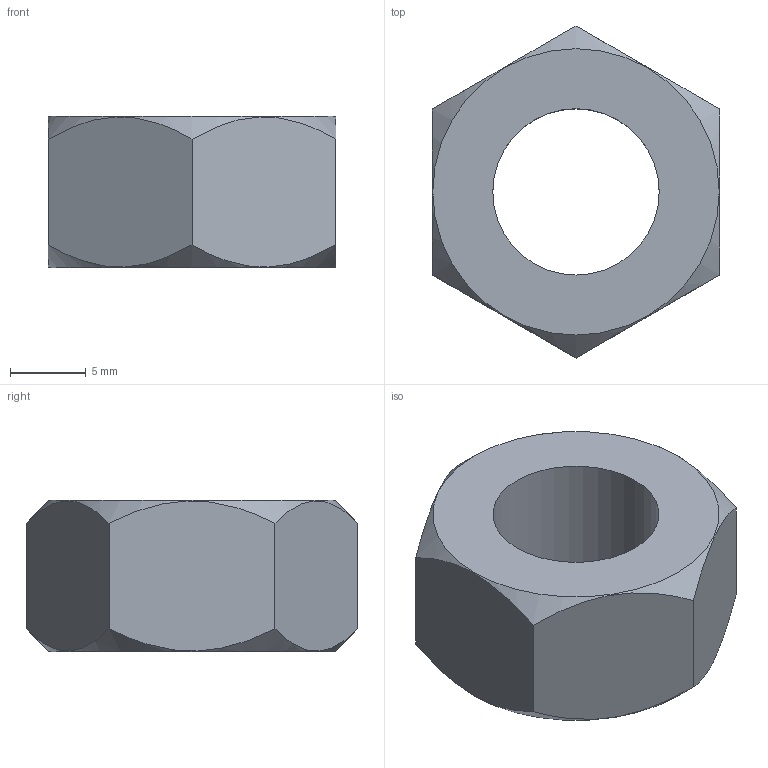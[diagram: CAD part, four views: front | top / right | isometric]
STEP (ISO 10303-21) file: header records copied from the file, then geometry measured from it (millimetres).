
FILE_DESCRIPTION(/* description */ (''),/* implementation_level */ '2;1');
FILE_NAME(/* name */ 'D:\조절자\NUT\M12 NUT.stp',/* time_stamp */ '2016-03-14T15:29:16+09:00',/* author */ ('GS-DT-1-001'),/* organization */ (''),/* preprocessor_version */ 'ST-DEVELOPER v15.6',/* originating_system */ 'Autodesk Inventor LT ',/* authorisation */ '');
FILE_SCHEMA (('AUTOMOTIVE_DESIGN { 1 0 10303 214 3 1 1 }'));
Length unit declared in the file: millimetre
Products named in the file (1): M12 NUT
Bounding box: 19 x 21.94 x 10 mm (x, y, z)
Volume: 2148.4 mm3; surface area: 1394.2 mm2
Topology: 1 solids, 1 shells, 11 faces, 25 edges, 16 vertices
Faces by surface type: plane 8, cone 2, cylinder 1
Full cylindrical faces by diameter (mm): 11 x1
Entity records: 308 total; most frequent: CARTESIAN_POINT 74, ORIENTED_EDGE 44, DIRECTION 38, EDGE_CURVE 22, EDGE_LOOP 16, VERTEX_POINT 16, AXIS2_PLACEMENT_3D 16, FACE_OUTER_BOUND 11
